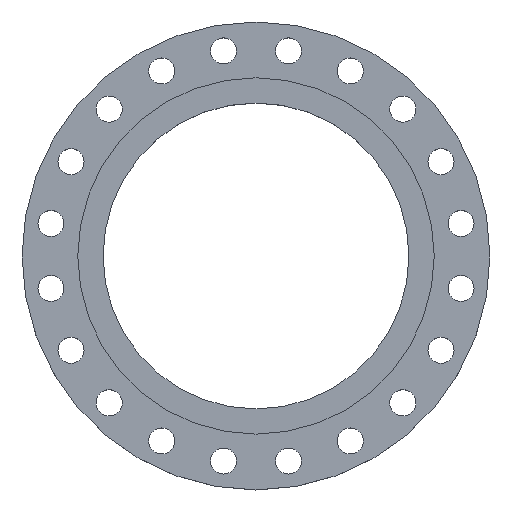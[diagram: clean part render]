
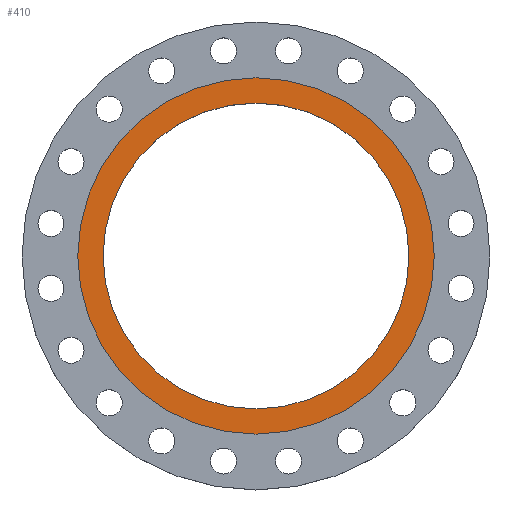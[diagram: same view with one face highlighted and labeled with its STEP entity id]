
A CAD part, top view. The second image highlights one B-rep face of the part: STEP entity #410.
In plain terms, the highlighted planar face has unit normal (0, 0, 1).
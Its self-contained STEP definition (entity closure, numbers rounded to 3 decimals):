
#8 = CARTESIAN_POINT ( 'NONE',  ( 246.752, 0., 0. ) ) ;
#56 = DIRECTION ( 'NONE',  ( -1., 0., 0. ) ) ;
#84 = EDGE_CURVE ( 'NONE', #1678, #1615, #883, .T. ) ;
#114 = CIRCLE ( 'NONE', #1802, 287.5 ) ;
#173 = DIRECTION ( 'NONE',  ( 0., 0., 1. ) ) ;
#231 = CIRCLE ( 'NONE', #252, 246.752 ) ;
#252 = AXIS2_PLACEMENT_3D ( 'NONE', #614, #1218, #1776 ) ;
#273 = VERTEX_POINT ( 'NONE', #1359 ) ;
#277 = CIRCLE ( 'NONE', #990, 287.5 ) ;
#291 = CARTESIAN_POINT ( 'NONE',  ( -246.752, 0., 0. ) ) ;
#316 = FACE_OUTER_BOUND ( 'NONE', #559, .T. ) ;
#360 = CARTESIAN_POINT ( 'NONE',  ( 0., 0., 0. ) ) ;
#410 = ADVANCED_FACE ( 'NONE', ( #1676, #316 ), #969, .T. ) ;
#452 = VERTEX_POINT ( 'NONE', #498 ) ;
#498 = CARTESIAN_POINT ( 'NONE',  ( -287.5, 0., 0. ) ) ;
#559 = EDGE_LOOP ( 'NONE', ( #600, #1697 ) ) ;
#600 = ORIENTED_EDGE ( 'NONE', *, *, #1784, .F. ) ;
#614 = CARTESIAN_POINT ( 'NONE',  ( 0., 0., 0. ) ) ;
#626 = DIRECTION ( 'NONE',  ( 0., 0., -1. ) ) ;
#756 = EDGE_CURVE ( 'NONE', #1615, #1678, #231, .T. ) ;
#825 = DIRECTION ( 'NONE',  ( 1., 0., 0. ) ) ;
#854 = CARTESIAN_POINT ( 'NONE',  ( 0., 0., 0. ) ) ;
#883 = CIRCLE ( 'NONE', #901, 246.752 ) ;
#901 = AXIS2_PLACEMENT_3D ( 'NONE', #360, #1011, #1579 ) ;
#969 = PLANE ( 'NONE',  #1084 ) ;
#990 = AXIS2_PLACEMENT_3D ( 'NONE', #1906, #626, #1232 ) ;
#1011 = DIRECTION ( 'NONE',  ( 0., 0., 1. ) ) ;
#1084 = AXIS2_PLACEMENT_3D ( 'NONE', #1532, #173, #825 ) ;
#1189 = ORIENTED_EDGE ( 'NONE', *, *, #84, .F. ) ;
#1218 = DIRECTION ( 'NONE',  ( 0., 0., 1. ) ) ;
#1232 = DIRECTION ( 'NONE',  ( -1., 0., 0. ) ) ;
#1359 = CARTESIAN_POINT ( 'NONE',  ( 287.5, 0., 0. ) ) ;
#1424 = DIRECTION ( 'NONE',  ( 0., 0., -1. ) ) ;
#1532 = CARTESIAN_POINT ( 'NONE',  ( 0., 0., 0. ) ) ;
#1579 = DIRECTION ( 'NONE',  ( 1., 0., 0. ) ) ;
#1615 = VERTEX_POINT ( 'NONE', #291 ) ;
#1624 = EDGE_LOOP ( 'NONE', ( #1189, #1754 ) ) ;
#1645 = EDGE_CURVE ( 'NONE', #273, #452, #277, .T. ) ;
#1676 = FACE_BOUND ( 'NONE', #1624, .T. ) ;
#1678 = VERTEX_POINT ( 'NONE', #8 ) ;
#1697 = ORIENTED_EDGE ( 'NONE', *, *, #1645, .F. ) ;
#1754 = ORIENTED_EDGE ( 'NONE', *, *, #756, .F. ) ;
#1776 = DIRECTION ( 'NONE',  ( 1., 0., 0. ) ) ;
#1784 = EDGE_CURVE ( 'NONE', #452, #273, #114, .T. ) ;
#1802 = AXIS2_PLACEMENT_3D ( 'NONE', #854, #1424, #56 ) ;
#1906 = CARTESIAN_POINT ( 'NONE',  ( 0., 0., 0. ) ) ;
